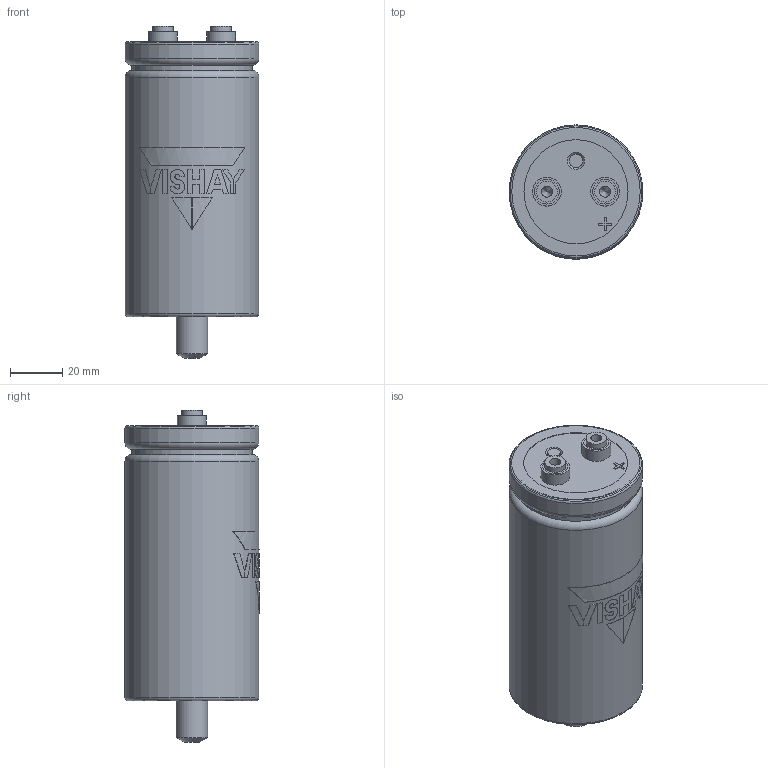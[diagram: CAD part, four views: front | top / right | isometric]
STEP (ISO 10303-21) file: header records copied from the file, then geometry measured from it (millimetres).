
FILE_DESCRIPTION(('FreeCAD Model'),'2;1');
FILE_NAME('C:/Users/tvandesteeg/Documents/Documents/FreeCAD/Stepfiles/ST capacitors/STB_HP_M5_50x105.step','2020-07-02T17:19:35',('Author'),(''), 'Open CASCADE STEP processor 7.3','FreeCAD','Unknown');
FILE_SCHEMA(('AUTOMOTIVE_DESIGN { 1 0 10303 214 1 1 1 1 }'));
Length unit declared in the file: millimetre
Products named in the file (7): VentBody; TerminalBody_(Mirror_#2); TerminalBody; Disc; LogoPrint; CanBody; STBBottomBody
Bounding box: 51 x 51.1 x 126.6 mm (x, y, z)
Volume: 213727.5 mm3; surface area: 35205.6 mm2
Topology: 17 solids, 17 shells, 152 faces, 318 edges, 209 vertices
Faces by surface type: plane 94, cylinder 49, torus 5, cone 4
Full cylindrical faces by diameter (mm): 4.2 x2, 5 x2, 7.9 x2, 9.45 x6, 11 x2, 11.966 x1, 39.667 x3, 46 x1, 47 x2, 51 x2
Entity records: 10704 total; most frequent: CARTESIAN_POINT 3294, DIRECTION 1228, ORIENTED_EDGE 632, PCURVE 632, DEFINITIONAL_REPRESENTATION 632, LINE 542, VECTOR 542, EDGE_CURVE 316
